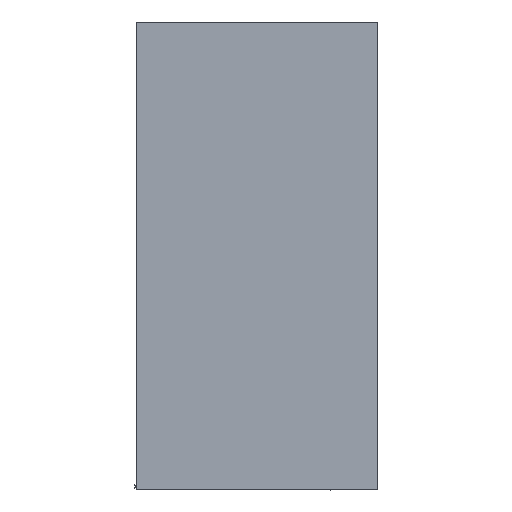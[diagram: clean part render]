
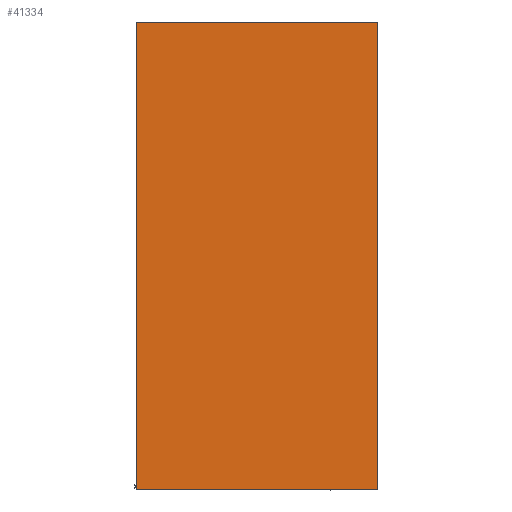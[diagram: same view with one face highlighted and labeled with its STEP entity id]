
A CAD part, left-side view. The second image highlights one B-rep face of the part: STEP entity #41334.
In plain terms, the highlighted planar face has unit normal (-1, 0, 0).
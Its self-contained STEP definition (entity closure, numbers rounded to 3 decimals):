
#41210=DIRECTION('',(0.,0.,1.));
#41211=VECTOR('',#41210,1030.);
#41212=CARTESIAN_POINT('',(0.,0.,-1030.));
#41213=LINE('',#41212,#41211);
#41214=DIRECTION('',(0.,1.,0.));
#41215=VECTOR('',#41214,2000.);
#41216=CARTESIAN_POINT('',(0.,0.,0.));
#41217=LINE('',#41216,#41215);
#41218=DIRECTION('',(0.,1.,0.));
#41219=VECTOR('',#41218,2000.);
#41220=CARTESIAN_POINT('',(0.,0.,-1030.));
#41221=LINE('',#41220,#41219);
#41242=DIRECTION('',(0.,0.,1.));
#41243=VECTOR('',#41242,1030.);
#41244=CARTESIAN_POINT('',(0.,2000.,-1030.));
#41245=LINE('',#41244,#41243);
#41262=CARTESIAN_POINT('',(0.,0.,0.));
#41264=VERTEX_POINT('',#41262);
#41272=CARTESIAN_POINT('',(0.,0.,-1030.));
#41273=VERTEX_POINT('',#41272);
#41274=CARTESIAN_POINT('',(0.,2000.,0.));
#41276=VERTEX_POINT('',#41274);
#41284=CARTESIAN_POINT('',(0.,2000.,-1030.));
#41285=VERTEX_POINT('',#41284);
#41321=CARTESIAN_POINT('',(0.,0.,-1030.));
#41322=DIRECTION('',(-1.,0.,0.));
#41323=DIRECTION('',(0.,0.,1.));
#41324=AXIS2_PLACEMENT_3D('',#41321,#41322,#41323);
#41325=PLANE('',#41324);
#41326=ORIENTED_EDGE('',*,*,#41301,.F.);
#41328=ORIENTED_EDGE('',*,*,#41327,.T.);
#41330=ORIENTED_EDGE('',*,*,#41329,.T.);
#41331=ORIENTED_EDGE('',*,*,#41312,.F.);
#41332=EDGE_LOOP('',(#41326,#41328,#41330,#41331));
#41333=FACE_OUTER_BOUND('',#41332,.F.);
#41334=ADVANCED_FACE('',(#41333),#41325,.T.);
#41301=EDGE_CURVE('',#41273,#41264,#41213,.T.);
#41312=EDGE_CURVE('',#41264,#41276,#41217,.T.);
#41327=EDGE_CURVE('',#41273,#41285,#41221,.T.);
#41329=EDGE_CURVE('',#41285,#41276,#41245,.T.);
